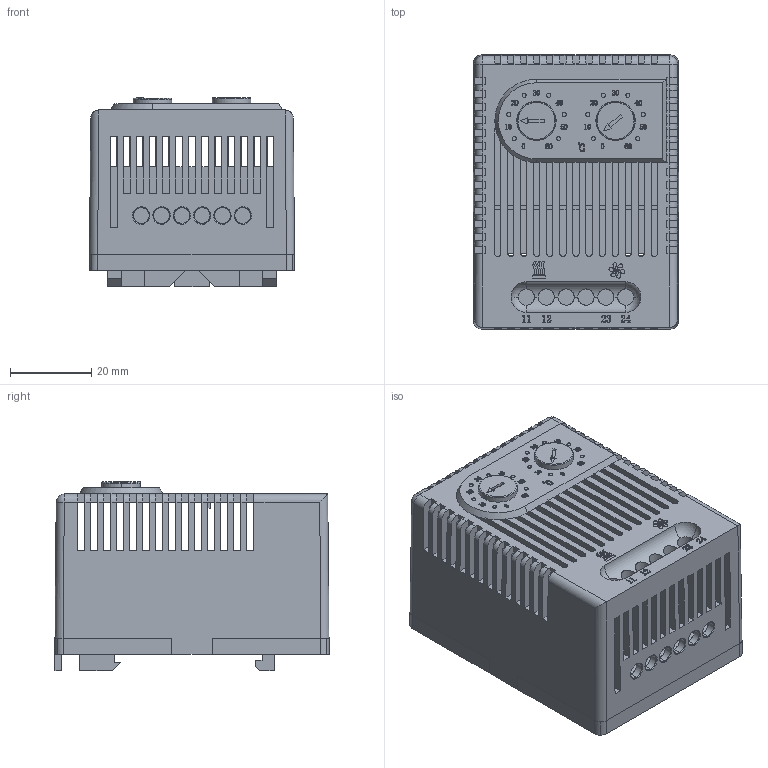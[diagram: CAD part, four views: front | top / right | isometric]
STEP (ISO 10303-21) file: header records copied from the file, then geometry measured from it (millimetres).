
FILE_DESCRIPTION(/* description */ (''),/* implementation_level */ '2;1');
FILE_NAME(/* name */ 'ZR011 温控器_step.stp',/* time_stamp */ '2026-02-25T09:50:40+08:00',/* author */ (''),/* organization */ (''),/* preprocessor_version */ 'ST-DEVELOPER v16.7',/* originating_system */ 'SIEMENS PLM Software NX 12.0',/* authorisation */ '');
FILE_SCHEMA (('AUTOMOTIVE_DESIGN { 1 0 10303 214 3 1 1 1 }'));
Length unit declared in the file: millimetre
Products named in the file (1): ZR011 温控器_step
Bounding box: 50.57 x 67.5 x 46.6 mm (x, y, z)
Volume: 33515 mm3; surface area: 33653.3 mm2
Topology: 2 solids, 2 shells, 958 faces, 2942 edges, 1912 vertices
Faces by surface type: plane 605, extrusion 163, cylinder 147, bspline 32, sphere 6, torus 4, cone 1
Full cylindrical faces by diameter (mm): 1 x12
Entity records: 41254 total; most frequent: CARTESIAN_POINT 15734, ORIENTED_EDGE 5820, DIRECTION 4257, EDGE_CURVE 2910, VECTOR 2121, LINE 1958, VERTEX_POINT 1912, EDGE_LOOP 1126
